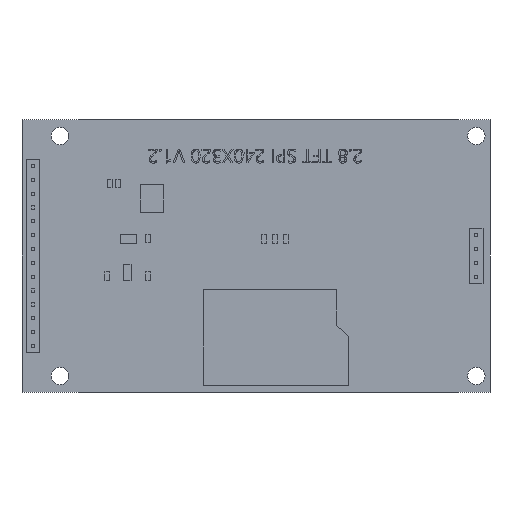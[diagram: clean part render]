
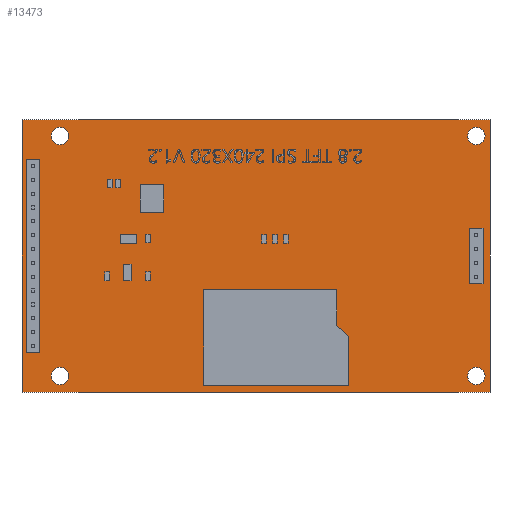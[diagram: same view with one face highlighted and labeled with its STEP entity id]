
A CAD part, front view. The second image highlights one B-rep face of the part: STEP entity #13473.
In plain terms, the highlighted planar face has unit normal (0, -1, 0).
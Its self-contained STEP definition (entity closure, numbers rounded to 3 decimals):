
#1004=CIRCLE('',#14326,0.5);
#1005=CIRCLE('',#14327,0.5);
#1006=CIRCLE('',#14328,0.5);
#1007=CIRCLE('',#14329,1.6);
#1008=CIRCLE('',#14330,0.5);
#1009=CIRCLE('',#14331,1.6);
#1010=CIRCLE('',#14332,0.5);
#1011=CIRCLE('',#14333,0.5);
#1012=CIRCLE('',#14334,0.5);
#1013=CIRCLE('',#14335,0.5);
#1014=CIRCLE('',#14336,0.5);
#1015=CIRCLE('',#14337,0.5);
#1016=CIRCLE('',#14338,0.5);
#1017=CIRCLE('',#14339,0.5);
#1018=CIRCLE('',#14340,0.5);
#1019=CIRCLE('',#14341,0.5);
#1020=CIRCLE('',#14342,1.6);
#1021=CIRCLE('',#14343,0.5);
#1022=CIRCLE('',#14344,0.5);
#1023=CIRCLE('',#14345,1.6);
#1024=CIRCLE('',#14346,0.5);
#1025=CIRCLE('',#14347,0.5);
#1050=FACE_BOUND('',#2081,.T.);
#1051=FACE_BOUND('',#2082,.T.);
#1052=FACE_BOUND('',#2083,.T.);
#1053=FACE_BOUND('',#2084,.T.);
#1054=FACE_BOUND('',#2085,.T.);
#1055=FACE_BOUND('',#2086,.T.);
#1056=FACE_BOUND('',#2087,.T.);
#1057=FACE_BOUND('',#2088,.T.);
#1058=FACE_BOUND('',#2089,.T.);
#1059=FACE_BOUND('',#2090,.T.);
#1060=FACE_BOUND('',#2091,.T.);
#1061=FACE_BOUND('',#2092,.T.);
#1062=FACE_BOUND('',#2093,.T.);
#1063=FACE_BOUND('',#2094,.T.);
#1064=FACE_BOUND('',#2095,.T.);
#1065=FACE_BOUND('',#2096,.T.);
#1066=FACE_BOUND('',#2097,.T.);
#1067=FACE_BOUND('',#2098,.T.);
#1068=FACE_BOUND('',#2099,.T.);
#1069=FACE_BOUND('',#2100,.T.);
#1070=FACE_BOUND('',#2101,.T.);
#1071=FACE_BOUND('',#2102,.T.);
#1294=FACE_OUTER_BOUND('',#2080,.T.);
#2080=EDGE_LOOP('',(#9046,#9047,#9048,#9049));
#2081=EDGE_LOOP('',(#9050));
#2082=EDGE_LOOP('',(#9051));
#2083=EDGE_LOOP('',(#9052));
#2084=EDGE_LOOP('',(#9053));
#2085=EDGE_LOOP('',(#9054));
#2086=EDGE_LOOP('',(#9055));
#2087=EDGE_LOOP('',(#9056));
#2088=EDGE_LOOP('',(#9057));
#2089=EDGE_LOOP('',(#9058));
#2090=EDGE_LOOP('',(#9059));
#2091=EDGE_LOOP('',(#9060));
#2092=EDGE_LOOP('',(#9061));
#2093=EDGE_LOOP('',(#9062));
#2094=EDGE_LOOP('',(#9063));
#2095=EDGE_LOOP('',(#9064));
#2096=EDGE_LOOP('',(#9065));
#2097=EDGE_LOOP('',(#9066));
#2098=EDGE_LOOP('',(#9067));
#2099=EDGE_LOOP('',(#9068));
#2100=EDGE_LOOP('',(#9069));
#2101=EDGE_LOOP('',(#9070));
#2102=EDGE_LOOP('',(#9071));
#2976=LINE('',#17238,#4308);
#2977=LINE('',#17240,#4309);
#2978=LINE('',#17242,#4310);
#2979=LINE('',#17243,#4311);
#4308=VECTOR('',#14886,10.);
#4309=VECTOR('',#14887,10.);
#4310=VECTOR('',#14888,10.);
#4311=VECTOR('',#14889,10.);
#5628=VERTEX_POINT('',#17236);
#5629=VERTEX_POINT('',#17237);
#5630=VERTEX_POINT('',#17239);
#5631=VERTEX_POINT('',#17241);
#5632=VERTEX_POINT('',#17244);
#5633=VERTEX_POINT('',#17246);
#5634=VERTEX_POINT('',#17248);
#5635=VERTEX_POINT('',#17250);
#5636=VERTEX_POINT('',#17252);
#5637=VERTEX_POINT('',#17254);
#5638=VERTEX_POINT('',#17256);
#5639=VERTEX_POINT('',#17258);
#5640=VERTEX_POINT('',#17260);
#5641=VERTEX_POINT('',#17262);
#5642=VERTEX_POINT('',#17264);
#5643=VERTEX_POINT('',#17266);
#5644=VERTEX_POINT('',#17268);
#5645=VERTEX_POINT('',#17270);
#5646=VERTEX_POINT('',#17272);
#5647=VERTEX_POINT('',#17274);
#5648=VERTEX_POINT('',#17276);
#5649=VERTEX_POINT('',#17278);
#5650=VERTEX_POINT('',#17280);
#5651=VERTEX_POINT('',#17282);
#5652=VERTEX_POINT('',#17284);
#5653=VERTEX_POINT('',#17286);
#6988=EDGE_CURVE('',#5628,#5629,#2976,.T.);
#6989=EDGE_CURVE('',#5629,#5630,#2977,.T.);
#6990=EDGE_CURVE('',#5630,#5631,#2978,.T.);
#6991=EDGE_CURVE('',#5631,#5628,#2979,.T.);
#6992=EDGE_CURVE('',#5632,#5632,#1004,.T.);
#6993=EDGE_CURVE('',#5633,#5633,#1005,.T.);
#6994=EDGE_CURVE('',#5634,#5634,#1006,.T.);
#6995=EDGE_CURVE('',#5635,#5635,#1007,.T.);
#6996=EDGE_CURVE('',#5636,#5636,#1008,.T.);
#6997=EDGE_CURVE('',#5637,#5637,#1009,.T.);
#6998=EDGE_CURVE('',#5638,#5638,#1010,.T.);
#6999=EDGE_CURVE('',#5639,#5639,#1011,.T.);
#7000=EDGE_CURVE('',#5640,#5640,#1012,.T.);
#7001=EDGE_CURVE('',#5641,#5641,#1013,.T.);
#7002=EDGE_CURVE('',#5642,#5642,#1014,.T.);
#7003=EDGE_CURVE('',#5643,#5643,#1015,.T.);
#7004=EDGE_CURVE('',#5644,#5644,#1016,.T.);
#7005=EDGE_CURVE('',#5645,#5645,#1017,.T.);
#7006=EDGE_CURVE('',#5646,#5646,#1018,.T.);
#7007=EDGE_CURVE('',#5647,#5647,#1019,.T.);
#7008=EDGE_CURVE('',#5648,#5648,#1020,.T.);
#7009=EDGE_CURVE('',#5649,#5649,#1021,.T.);
#7010=EDGE_CURVE('',#5650,#5650,#1022,.T.);
#7011=EDGE_CURVE('',#5651,#5651,#1023,.T.);
#7012=EDGE_CURVE('',#5652,#5652,#1024,.T.);
#7013=EDGE_CURVE('',#5653,#5653,#1025,.T.);
#9046=ORIENTED_EDGE('',*,*,#6988,.T.);
#9047=ORIENTED_EDGE('',*,*,#6989,.T.);
#9048=ORIENTED_EDGE('',*,*,#6990,.T.);
#9049=ORIENTED_EDGE('',*,*,#6991,.T.);
#9050=ORIENTED_EDGE('',*,*,#6992,.T.);
#9051=ORIENTED_EDGE('',*,*,#6993,.T.);
#9052=ORIENTED_EDGE('',*,*,#6994,.T.);
#9053=ORIENTED_EDGE('',*,*,#6995,.T.);
#9054=ORIENTED_EDGE('',*,*,#6996,.T.);
#9055=ORIENTED_EDGE('',*,*,#6997,.T.);
#9056=ORIENTED_EDGE('',*,*,#6998,.T.);
#9057=ORIENTED_EDGE('',*,*,#6999,.T.);
#9058=ORIENTED_EDGE('',*,*,#7000,.T.);
#9059=ORIENTED_EDGE('',*,*,#7001,.T.);
#9060=ORIENTED_EDGE('',*,*,#7002,.T.);
#9061=ORIENTED_EDGE('',*,*,#7003,.T.);
#9062=ORIENTED_EDGE('',*,*,#7004,.T.);
#9063=ORIENTED_EDGE('',*,*,#7005,.T.);
#9064=ORIENTED_EDGE('',*,*,#7006,.T.);
#9065=ORIENTED_EDGE('',*,*,#7007,.T.);
#9066=ORIENTED_EDGE('',*,*,#7008,.T.);
#9067=ORIENTED_EDGE('',*,*,#7009,.T.);
#9068=ORIENTED_EDGE('',*,*,#7010,.T.);
#9069=ORIENTED_EDGE('',*,*,#7011,.T.);
#9070=ORIENTED_EDGE('',*,*,#7012,.T.);
#9071=ORIENTED_EDGE('',*,*,#7013,.T.);
#13034=PLANE('',#14325);
#13473=ADVANCED_FACE('',(#1294,#1050,#1051,#1052,#1053,#1054,#1055,#1056,
#1057,#1058,#1059,#1060,#1061,#1062,#1063,#1064,#1065,#1066,#1067,#1068,
#1069,#1070,#1071),#13034,.F.);
#14325=AXIS2_PLACEMENT_3D('',#17235,#14884,#14885);
#14326=AXIS2_PLACEMENT_3D('',#17245,#14890,#14891);
#14327=AXIS2_PLACEMENT_3D('',#17247,#14892,#14893);
#14328=AXIS2_PLACEMENT_3D('',#17249,#14894,#14895);
#14329=AXIS2_PLACEMENT_3D('',#17251,#14896,#14897);
#14330=AXIS2_PLACEMENT_3D('',#17253,#14898,#14899);
#14331=AXIS2_PLACEMENT_3D('',#17255,#14900,#14901);
#14332=AXIS2_PLACEMENT_3D('',#17257,#14902,#14903);
#14333=AXIS2_PLACEMENT_3D('',#17259,#14904,#14905);
#14334=AXIS2_PLACEMENT_3D('',#17261,#14906,#14907);
#14335=AXIS2_PLACEMENT_3D('',#17263,#14908,#14909);
#14336=AXIS2_PLACEMENT_3D('',#17265,#14910,#14911);
#14337=AXIS2_PLACEMENT_3D('',#17267,#14912,#14913);
#14338=AXIS2_PLACEMENT_3D('',#17269,#14914,#14915);
#14339=AXIS2_PLACEMENT_3D('',#17271,#14916,#14917);
#14340=AXIS2_PLACEMENT_3D('',#17273,#14918,#14919);
#14341=AXIS2_PLACEMENT_3D('',#17275,#14920,#14921);
#14342=AXIS2_PLACEMENT_3D('',#17277,#14922,#14923);
#14343=AXIS2_PLACEMENT_3D('',#17279,#14924,#14925);
#14344=AXIS2_PLACEMENT_3D('',#17281,#14926,#14927);
#14345=AXIS2_PLACEMENT_3D('',#17283,#14928,#14929);
#14346=AXIS2_PLACEMENT_3D('',#17285,#14930,#14931);
#14347=AXIS2_PLACEMENT_3D('',#17287,#14932,#14933);
#14884=DIRECTION('center_axis',(0.,1.,0.));
#14885=DIRECTION('ref_axis',(1.,0.,0.));
#14886=DIRECTION('',(1.,0.,0.));
#14887=DIRECTION('',(0.,0.,1.));
#14888=DIRECTION('',(-1.,0.,0.));
#14889=DIRECTION('',(0.,0.,-1.));
#14890=DIRECTION('center_axis',(0.,1.,0.));
#14891=DIRECTION('ref_axis',(1.,0.,0.));
#14892=DIRECTION('center_axis',(0.,1.,0.));
#14893=DIRECTION('ref_axis',(1.,0.,0.));
#14894=DIRECTION('center_axis',(0.,1.,0.));
#14895=DIRECTION('ref_axis',(1.,0.,0.));
#14896=DIRECTION('center_axis',(0.,1.,0.));
#14897=DIRECTION('ref_axis',(1.,0.,0.));
#14898=DIRECTION('center_axis',(0.,1.,0.));
#14899=DIRECTION('ref_axis',(1.,0.,0.));
#14900=DIRECTION('center_axis',(0.,1.,0.));
#14901=DIRECTION('ref_axis',(1.,0.,0.));
#14902=DIRECTION('center_axis',(0.,1.,0.));
#14903=DIRECTION('ref_axis',(1.,0.,0.));
#14904=DIRECTION('center_axis',(0.,1.,0.));
#14905=DIRECTION('ref_axis',(1.,0.,0.));
#14906=DIRECTION('center_axis',(0.,1.,0.));
#14907=DIRECTION('ref_axis',(1.,0.,0.));
#14908=DIRECTION('center_axis',(0.,1.,0.));
#14909=DIRECTION('ref_axis',(1.,0.,0.));
#14910=DIRECTION('center_axis',(0.,1.,0.));
#14911=DIRECTION('ref_axis',(1.,0.,0.));
#14912=DIRECTION('center_axis',(0.,1.,0.));
#14913=DIRECTION('ref_axis',(1.,0.,0.));
#14914=DIRECTION('center_axis',(0.,1.,0.));
#14915=DIRECTION('ref_axis',(1.,0.,0.));
#14916=DIRECTION('center_axis',(0.,1.,0.));
#14917=DIRECTION('ref_axis',(1.,0.,0.));
#14918=DIRECTION('center_axis',(0.,1.,0.));
#14919=DIRECTION('ref_axis',(1.,0.,0.));
#14920=DIRECTION('center_axis',(0.,1.,0.));
#14921=DIRECTION('ref_axis',(1.,0.,0.));
#14922=DIRECTION('center_axis',(0.,1.,0.));
#14923=DIRECTION('ref_axis',(1.,0.,0.));
#14924=DIRECTION('center_axis',(0.,1.,0.));
#14925=DIRECTION('ref_axis',(1.,0.,0.));
#14926=DIRECTION('center_axis',(0.,1.,0.));
#14927=DIRECTION('ref_axis',(1.,0.,0.));
#14928=DIRECTION('center_axis',(0.,1.,0.));
#14929=DIRECTION('ref_axis',(1.,0.,0.));
#14930=DIRECTION('center_axis',(0.,1.,0.));
#14931=DIRECTION('ref_axis',(1.,0.,0.));
#14932=DIRECTION('center_axis',(0.,1.,0.));
#14933=DIRECTION('ref_axis',(1.,0.,0.));
#17235=CARTESIAN_POINT('Origin',(42.9,-1.6,25.));
#17236=CARTESIAN_POINT('',(0.,-1.6,0.));
#17237=CARTESIAN_POINT('',(85.8,-1.6,0.));
#17238=CARTESIAN_POINT('',(0.,-1.6,0.));
#17239=CARTESIAN_POINT('',(85.8,-1.6,50.));
#17240=CARTESIAN_POINT('',(85.8,-1.6,0.));
#17241=CARTESIAN_POINT('',(0.,-1.6,50.));
#17242=CARTESIAN_POINT('',(0.,-1.6,50.));
#17243=CARTESIAN_POINT('',(0.,-1.6,3.));
#17244=CARTESIAN_POINT('',(82.78,-1.6,28.81));
#17245=CARTESIAN_POINT('Origin',(83.28,-1.6,28.81));
#17246=CARTESIAN_POINT('',(82.78,-1.6,26.27));
#17247=CARTESIAN_POINT('Origin',(83.28,-1.6,26.27));
#17248=CARTESIAN_POINT('',(82.78,-1.6,23.73));
#17249=CARTESIAN_POINT('Origin',(83.28,-1.6,23.73));
#17250=CARTESIAN_POINT('',(81.7,-1.6,47.));
#17251=CARTESIAN_POINT('Origin',(83.3,-1.6,47.));
#17252=CARTESIAN_POINT('',(82.78,-1.6,21.19));
#17253=CARTESIAN_POINT('Origin',(83.28,-1.6,21.19));
#17254=CARTESIAN_POINT('',(81.7,-1.6,3.));
#17255=CARTESIAN_POINT('Origin',(83.3,-1.6,3.));
#17256=CARTESIAN_POINT('',(1.5,-1.6,18.65));
#17257=CARTESIAN_POINT('Origin',(2.,-1.6,18.65));
#17258=CARTESIAN_POINT('',(1.5,-1.6,16.11));
#17259=CARTESIAN_POINT('Origin',(2.,-1.6,16.11));
#17260=CARTESIAN_POINT('',(1.5,-1.6,13.57));
#17261=CARTESIAN_POINT('Origin',(2.,-1.6,13.57));
#17262=CARTESIAN_POINT('',(1.5,-1.6,11.03));
#17263=CARTESIAN_POINT('Origin',(2.,-1.6,11.03));
#17264=CARTESIAN_POINT('',(1.5,-1.6,28.81));
#17265=CARTESIAN_POINT('Origin',(2.,-1.6,28.81));
#17266=CARTESIAN_POINT('',(1.5,-1.6,31.35));
#17267=CARTESIAN_POINT('Origin',(2.,-1.6,31.35));
#17268=CARTESIAN_POINT('',(1.5,-1.6,33.89));
#17269=CARTESIAN_POINT('Origin',(2.,-1.6,33.89));
#17270=CARTESIAN_POINT('',(1.5,-1.6,36.43));
#17271=CARTESIAN_POINT('Origin',(2.,-1.6,36.43));
#17272=CARTESIAN_POINT('',(1.5,-1.6,38.97));
#17273=CARTESIAN_POINT('Origin',(2.,-1.6,38.97));
#17274=CARTESIAN_POINT('',(1.5,-1.6,41.51));
#17275=CARTESIAN_POINT('Origin',(2.,-1.6,41.51));
#17276=CARTESIAN_POINT('',(5.4,-1.6,47.));
#17277=CARTESIAN_POINT('Origin',(7.,-1.6,47.));
#17278=CARTESIAN_POINT('',(1.5,-1.6,21.19));
#17279=CARTESIAN_POINT('Origin',(2.,-1.6,21.19));
#17280=CARTESIAN_POINT('',(1.5,-1.6,23.73));
#17281=CARTESIAN_POINT('Origin',(2.,-1.6,23.73));
#17282=CARTESIAN_POINT('',(5.4,-1.6,3.));
#17283=CARTESIAN_POINT('Origin',(7.,-1.6,3.));
#17284=CARTESIAN_POINT('',(1.5,-1.6,8.49));
#17285=CARTESIAN_POINT('Origin',(2.,-1.6,8.49));
#17286=CARTESIAN_POINT('',(1.5,-1.6,26.27));
#17287=CARTESIAN_POINT('Origin',(2.,-1.6,26.27));
